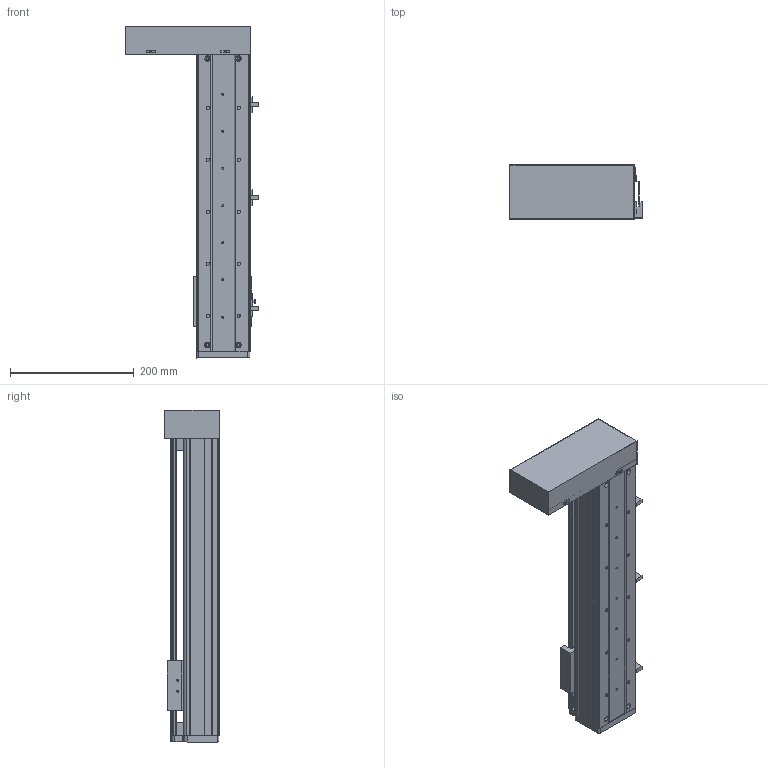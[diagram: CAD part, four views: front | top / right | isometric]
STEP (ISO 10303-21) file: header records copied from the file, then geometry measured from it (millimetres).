
FILE_DESCRIPTION (( 'STEP AP214' ), '1' );
FILE_NAME ('CF86-C-300-FWL.STEP', '2020-01-15T08:29:47', ( '微软用户' ), ( '微软中国' ), 'SwSTEP 2.0', 'SolidWorks 2016', '' );
FILE_SCHEMA (( 'AUTOMOTIVE_DESIGN' ));
Length unit declared in the file: millimetre
Products named in the file (13): CF86-C-300-FWL; 嫖萇羲壽; 75-86-95癹弇羲壽覜茼え; CF86肮祭湍欶酘殏; CF86左折弯电机安装板; CF86賑輸; 02 86盓傅釱; 01 86嘐隅釱; EGW15CA賑輸; EGR15-300; 86臏倰第-300; 86裔啣-300; 86耜啣
Assembly tree (14 placements, depth 2):
  CF86-C-300-FWL
    86耜啣
    86裔啣-300
    86臏倰第-300
    EGR15-300
    EGW15CA賑輸
    01 86嘐隅釱
    02 86盓傅釱
    CF86賑輸
    CF86左折弯电机安装板
    CF86肮祭湍欶酘殏
    75-86-95癹弇羲壽覜茼え
    嫖萇羲壽  x3
Bounding box: 215.22 x 88 x 536 mm (x, y, z)
Volume: 1479176.8 mm3; surface area: 586471.9 mm2
Topology: 14 solids, 14 shells, 658 faces, 1781 edges, 1178 vertices
Faces by surface type: plane 361, cylinder 289, cone 8
Entity records: 20972 total; most frequent: CARTESIAN_POINT 3563, DIRECTION 3401, ORIENTED_EDGE 3258, EDGE_CURVE 1629, AXIS2_PLACEMENT_3D 1188, VERTEX_POINT 1082, VECTOR 1025, LINE 1025
